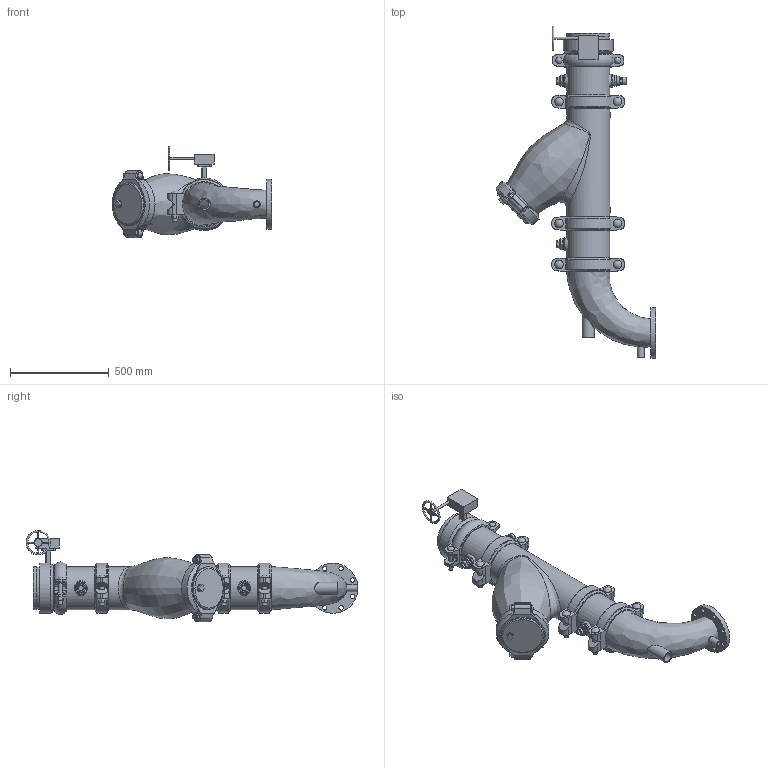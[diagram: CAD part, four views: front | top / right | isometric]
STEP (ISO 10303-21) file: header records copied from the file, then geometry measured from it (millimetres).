
FILE_DESCRIPTION(/* description */ ('VIC SVI PUMP DROP HORZ S/382 (OGSxFLG) (S/924-0.75)','CAx-IF Rec.Pracs.---Representation and Presentation of Product Manufacturing Information (PMI)---4.0---2014-10-13'),/* implementation_level */ '2;1');
FILE_NAME(/* name */ 'C:\Users\Vjadhav\AppData\Roaming\Autodesk\ApplicationPlugins\Victaulic.Temp\A115\Series 382 (OGSxFLG)_924 (0.75)_08.0x05.0 (200x125).stp',/* time_stamp */ '2022-03-17T12:19:55+06:00',/* author */ ('kkamble'),/* organization */ ('Victaulic'),/* preprocessor_version */ 'ST-DEVELOPER v17.2',/* originating_system */ 'Autodesk Inventor 2019',/* authorisation */ '');
FILE_SCHEMA (('AP242_MANAGED_MODEL_BASED_3D_ENGINEERING_MIM_LF { 1 0 10303 442 1 1 4 }'));
Length unit declared in the file: inch
Products named in the file (13): 382_924 (0.75)-08.0x05.0; PIPE-08.0; 107N-08.0; 732-08.0; 732-08.0_1; 07-08.0; 732-08.0_2; PIPE-08.1; 924-04.0x0.75; 761-08.0; 177N-08.0; 923-10.0x0.75; R100F-08.0x05.0
Assembly tree (15 placements, depth 3):
  382_924 (0.75)-08.0x05.0
    PIPE-08.0
    107N-08.0
    732-08.0
      732-08.0_1
      07-08.0
      732-08.0_2
    177N-08.0  x3
    PIPE-08.1
    924-04.0x0.75
    761-08.0
    923-10.0x0.75  x2
    R100F-08.0x05.0
Bounding box: 809.75 x 1684.14 x 463.13 mm (x, y, z)
Volume: 21587552.9 mm3; surface area: 4144514.7 mm2
Topology: 14 solids, 17 shells, 846 faces, 2215 edges, 1472 vertices
Faces by surface type: plane 476, cylinder 272, torus 31, bspline 30, cone 27, sphere 10
Full cylindrical faces by diameter (mm): 8.636 x4, 12.446 x1, 12.7 x1, 19.05 x8, 21.336 x2, 22.225 x6, 22.352 x8, 22.86 x1, 26.67 x4, 32.537 x4, 34.29 x1, 38.1 x1, 38.608 x1, 39.125 x1, 42.85 x6, 45.974 x6, 48.26 x1, 55.118 x1, 55.626 x3, 60.96 x1, 76.2 x2, 128.194 x1, 190.5 x1, 202.463 x1, 202.717 x4, 202.819 x1, 206.375 x5, 214.401 x11, 219.075 x26, 254 x2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
Entity records: 25352 total; most frequent: CARTESIAN_POINT 8902, DIRECTION 3322, ORIENTED_EDGE 3134, EDGE_CURVE 1567, AXIS2_PLACEMENT_3D 1270, VERTEX_POINT 1049, LINE 782, VECTOR 782
